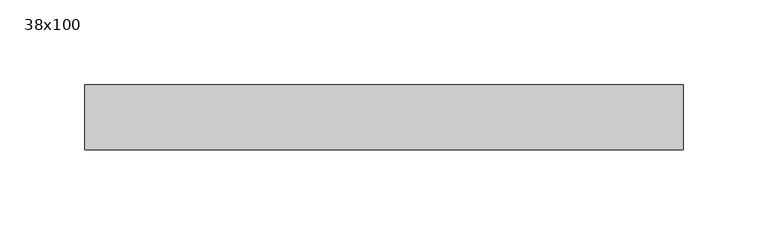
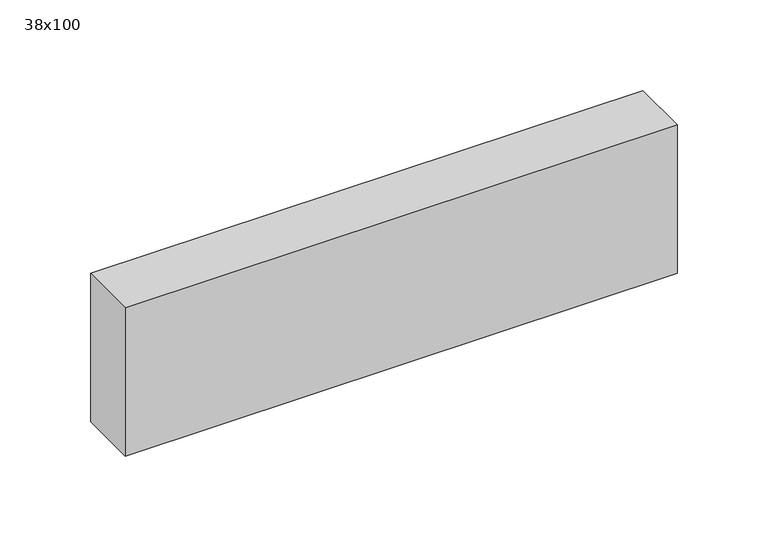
"""IFC4 building model written with IfcOpenShell, lengths in millimetres: beam geometry, Poutre - Bois de construction de dimensions courantes : 38x100."""

from ifc_helpers import new_model, si_unit, frame, origin, place, context, project, spatial, polyline, outline, extrude, source, transform, mapped, element, save


def beam_38x100_78e12853(model_context):
    return source(origin(), model_context, "Body", "SweptSolid", [
        extrude(outline(polyline([(169.0, 19.05), (169.0, -19.05), (-183.0, -19.05), (-183.0, 19.05), (169.0, 19.05)])), frame((0.0, 0.0, -50.0), z_axis=(0.0, 0.0, 1.0), x_axis=(1.0, 0.0, 0.0)), (0.0, 0.0, 1.0), 100.0),
    ])


if __name__ == "__main__":
    model = new_model("IFC4")
    model_context = context("Model", 3, world=origin())
    ifc_project = project(units=[si_unit("LENGTHUNIT", "METRE", prefix="MILLI")], contexts=[model_context])
    site = spatial("IfcSite", under=ifc_project)
    building = spatial("IfcBuilding", under=site)
    placement = place(None, origin())
    beam_38x100_shape = beam_38x100_78e12853(model_context)
    element("IfcBeam", 1, ObjectType="Poutre - Bois de construction de dimensions courantes : 38x100", at=placement, inside=building, context=model_context, shape_type="MappedRepresentation", body=[
        mapped(beam_38x100_shape, transform((0.0, 0.0, 0.0), x_axis=(1.0, 0.0, 0.0), y_axis=(0.0, 1.0, 0.0), z_axis=(0.0, 0.0, 1.0))),
    ])
    save(model, "model.ifc")
